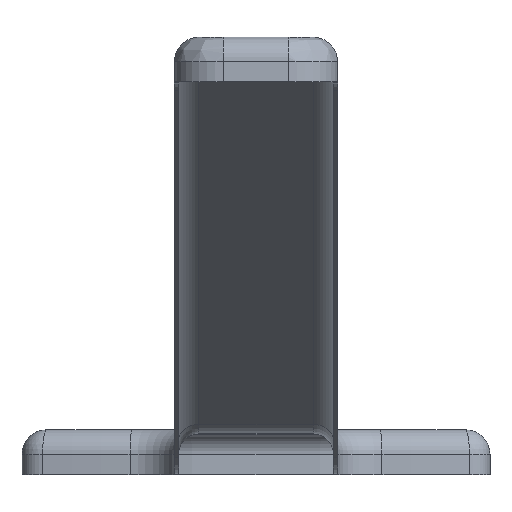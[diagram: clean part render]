
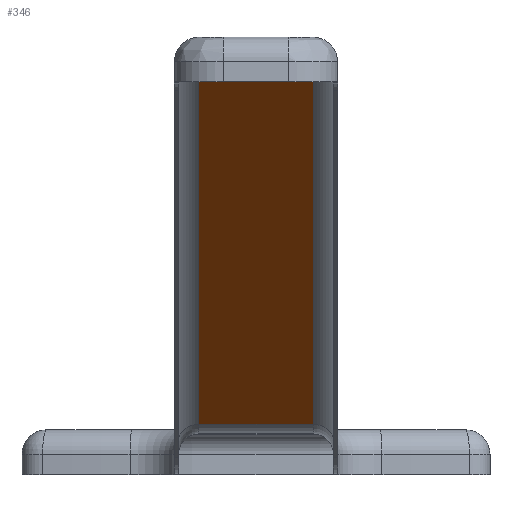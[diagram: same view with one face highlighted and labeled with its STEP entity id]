
A CAD part, top view. The second image highlights one B-rep face of the part: STEP entity #346.
In plain terms, the highlighted planar face has unit normal (0, -0.793, 0.609).
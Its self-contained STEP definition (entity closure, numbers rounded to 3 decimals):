
#346=ADVANCED_FACE('',(#463),#428,.T.);
#428=PLANE('',#1772);
#463=FACE_OUTER_BOUND('',#563,.T.);
#563=EDGE_LOOP('',(#838,#839,#840,#841));
#838=ORIENTED_EDGE('',*,*,#1381,.F.);
#839=ORIENTED_EDGE('',*,*,#1382,.T.);
#840=ORIENTED_EDGE('',*,*,#1383,.F.);
#841=ORIENTED_EDGE('',*,*,#1384,.T.);
#1212=VERTEX_POINT('',#2760);
#1213=VERTEX_POINT('',#2761);
#1214=VERTEX_POINT('',#2763);
#1215=VERTEX_POINT('',#2765);
#1381=EDGE_CURVE('',#1212,#1213,#1551,.T.);
#1382=EDGE_CURVE('',#1212,#1214,#1552,.T.);
#1383=EDGE_CURVE('',#1215,#1214,#1553,.T.);
#1384=EDGE_CURVE('',#1215,#1213,#1554,.T.);
#1551=LINE('',#2759,#1653);
#1552=LINE('',#2762,#1654);
#1553=LINE('',#2764,#1655);
#1554=LINE('',#2766,#1656);
#1653=VECTOR('',#2181,1.);
#1654=VECTOR('',#2182,1.);
#1655=VECTOR('',#2183,1.);
#1656=VECTOR('',#2184,1.);
#1772=AXIS2_PLACEMENT_3D('',#2767,#2185,#2186);
#2181=DIRECTION('',(-1.,0.,0.));
#2182=DIRECTION('',(0.,0.609,0.793));
#2183=DIRECTION('',(1.,0.,0.));
#2184=DIRECTION('',(0.,-0.609,-0.793));
#2185=DIRECTION('',(0.,-0.793,0.609));
#2186=DIRECTION('',(0.,-0.609,-0.793));
#2759=CARTESIAN_POINT('',(-7.9,184.637,177.233));
#2760=CARTESIAN_POINT('',(9.1,184.637,177.233));
#2761=CARTESIAN_POINT('',(-4.9,184.637,177.233));
#2762=CARTESIAN_POINT('',(9.1,231.603,238.441));
#2763=CARTESIAN_POINT('',(9.1,229.537,235.748));
#2764=CARTESIAN_POINT('',(-7.9,229.537,235.748));
#2765=CARTESIAN_POINT('',(-4.9,229.537,235.748));
#2766=CARTESIAN_POINT('',(-4.9,231.603,238.441));
#2767=CARTESIAN_POINT('',(-7.9,231.603,238.441));
